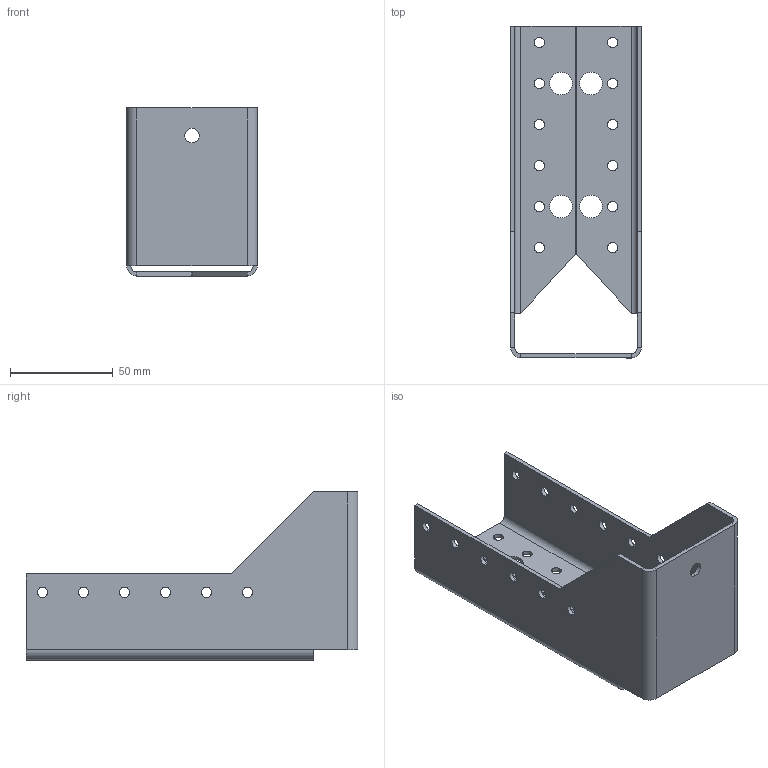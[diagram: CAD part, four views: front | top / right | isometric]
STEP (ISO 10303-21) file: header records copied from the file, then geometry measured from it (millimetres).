
FILE_DESCRIPTION (( 'STEP AP203' ), '1' );
FILE_NAME ('30616IKO.STEP', '2020-04-08T12:17:52', ( '' ), ( '' ), 'SwSTEP 2.0', 'SolidWorks 2013', '' );
FILE_SCHEMA (( 'CONFIG_CONTROL_DESIGN' ));
Length unit declared in the file: millimetre
Products named in the file (1): 30616IKO
Bounding box: 63.72 x 161.86 x 82 mm (x, y, z)
Volume: 54602.7 mm3; surface area: 57611.9 mm2
Topology: 1 solids, 1 shells, 102 faces, 268 edges, 168 vertices
Faces by surface type: cylinder 66, plane 36
Entity records: 3361 total; most frequent: DIRECTION 606, CARTESIAN_POINT 539, ORIENTED_EDGE 536, EDGE_CURVE 268, AXIS2_PLACEMENT_3D 235, VERTEX_POINT 168, EDGE_LOOP 160, LINE 136
